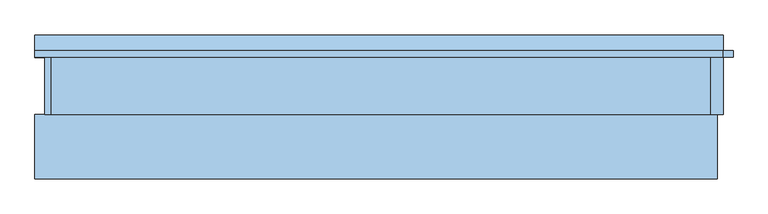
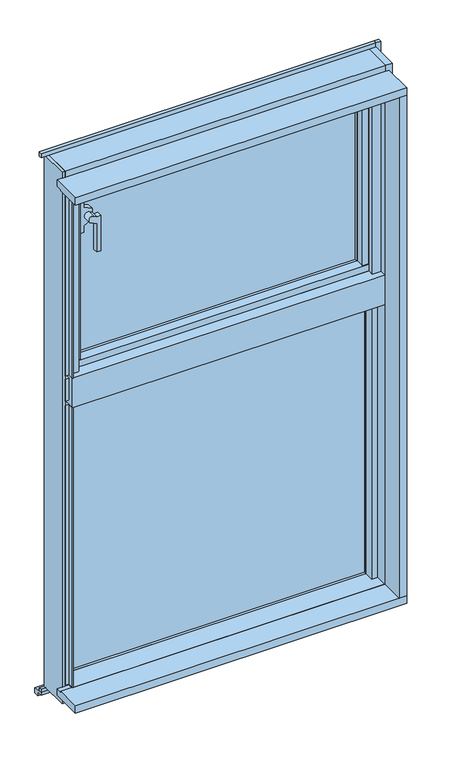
"""IFC4 building model written with IfcOpenShell, lengths in millimetres: window geometry, FNSⅡ100R_個別防火_ALC枠_段窓 : たてすべりだし/FIX."""

from ifc_helpers import new_model, si_unit, frame, origin, place, context, project, spatial, polyline, circle_curve, outline, extrude, faceted_brep, source, transform, mapped, element, save
from ifc_brep_helpers import plane_surface, cylinder_surface, advanced_brep


def window_07d2fa6b(model_context):
    return source(origin(), model_context, "Body", "SolidModel", [
        advanced_brep(
        [(-432.2217924, -8.25, 2440.1128987), (-422.5780089, -8.25, 2459.8870044), (-422.5780089, 16.25, 2459.8870044), (-432.2217924, 16.25, 2440.1128987), (-413.0, -8.25, 2430.7385568), (-413.0, 16.25, 2430.7385568), (-413.0, 6.727, 2430.7385568), (-413.0, 16.25, 2455.2157929), (-413.0, 6.727, 2455.2157929), (-413.0, -8.25, 2335.0), (-399.9, -8.25, 2335.0), (-399.9, -8.25, 2455.1670227), (-413.0, -8.25, 2455.1670227), (-399.9, 6.727, 2455.1670227), (-399.9, 6.727, 2335.0), (-413.0, 6.727, 2335.0)],
        [
            (0, 1, circle_curve(frame((-427.3999338, -8.25, 2449.9999677), z_axis=(0.0, 1.0, 0.0), x_axis=(1.0, 0.0, 0.0)), 11.0002024)),
            (1, 2),
            (2, 3, circle_curve(frame((-427.3999338, 16.25, 2449.9999677), z_axis=(0.0, -1.0, 0.0), x_axis=(1.0, 0.0, 0.0)), 11.0002024)),
            (3, 0),
            (4, 0),
            (3, 5),
            (5, 6),
            (6, 4),
            (5, 7),
            (7, 8),
            (8, 6),
            (4, 9),
            (9, 10),
            (10, 11),
            (11, 12),
            (12, 1),
            (2, 7),
            (12, 8),
            (13, 14),
            (14, 15),
            (15, 6),
            (8, 13),
            (15, 9),
            (14, 10),
            (13, 11),
        ],
        [
            cylinder_surface(frame((-427.3999338, 16.25, 2449.9999677), z_axis=(0.0, -1.0, 0.0), x_axis=(1.0, 0.0, 0.0)), 11.0002024),
            plane_surface(frame((-432.2217924, -8.25, 2440.1128987), z_axis=(-0.4383427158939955, 0.0, -0.8988079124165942), x_axis=(0.0, 1.0, 0.0))),
            plane_surface(frame((-413.0, -8.25, 2430.7385568), z_axis=(1.0, 0.0, 0.0), x_axis=(0.0, 1.0, 0.0))),
            plane_surface(frame((-416.3997314, -8.25, 2449.9999677), z_axis=(0.0, -1.0, 0.0), x_axis=(0.0, 0.0, 1.0))),
            plane_surface(frame((-416.3997314, 16.25, 2449.9999677), z_axis=(0.0, 1.0, 0.0), x_axis=(0.0, 0.0, -1.0))),
            plane_surface(frame((-413.0, -8.25, 2455.2157929), z_axis=(0.43834873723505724, 0.0, 0.8988049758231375), x_axis=(0.0, 1.0, 0.0))),
            plane_surface(frame((-412.9, 6.727, 2455.1670227), z_axis=(0.0, 1.0, 0.0), x_axis=(1.0, 0.0, 0.0))),
            plane_surface(frame((-413.0, -8.25, 2455.1670227), z_axis=(-1.0, 0.0, 0.0), x_axis=(0.0, 1.0, 0.0))),
            plane_surface(frame((-413.0, -8.25, 2335.0), z_axis=(0.0, 0.0, -1.0), x_axis=(0.0, 1.0, 0.0))),
            plane_surface(frame((-399.9, -8.25, 2335.0), z_axis=(1.0, 0.0, 0.0), x_axis=(0.0, 1.0, 0.0))),
            plane_surface(frame((-399.9, -8.25, 2455.1670227), z_axis=(0.0, 0.0, 1.0), x_axis=(0.0, 1.0, 0.0))),
        ],
        [
            (0, [[1, 2, 3, 4]]),
            (1, [[5, -4, 6, 7, 8]]),
            (2, [[9, 10, 11, -7]]),
            (3, [[-1, -5, 12, 13, 14, 15, 16]]),
            (4, [[17, -9, -6, -3]]),
            (5, [[-16, 18, -10, -17, -2]]),
            (6, [[19, 20, 21, -11, 22]]),
            (7, [[23, -12, -8, -21]]),
            (8, [[-13, -23, -20, 24]]),
            (9, [[-14, -24, -19, 25]]),
            (10, [[-15, -25, -22, -18]]),
        ],
    ),
        extrude(outline(polyline([(2504.0, -453.0), (2396.0, -453.0), (2396.0, -440.0), (2418.8197636, -440.0), (2432.0649514, -413.0), (2467.9350486, -413.0), (2481.1802364, -440.0), (2504.0, -440.0), (2504.0, -453.0)])), frame((0.0, 16.25, 0.0), z_axis=(0.0, 1.0, 0.0), x_axis=(0.0, 0.0, 1.0)), (0.0, 0.0, 1.0), 21.0),
        extrude(outline(polyline([(-453.0, 60.0), (453.0, 60.0), (453.0, 54.0), (-453.0, 54.0), (-453.0, 60.0)])), frame((0.0, 0.0, 1969.0), z_axis=(0.0, 0.0, 1.0), x_axis=(1.0, 0.0, 0.0)), (0.0, 0.0, 1.0), 585.0),
        extrude(outline(polyline([(-453.0, 78.0), (453.0, 78.0), (453.0, 72.0), (-453.0, 72.0), (-453.0, 78.0)])), frame((0.0, 0.0, 1969.0), z_axis=(0.0, 0.0, 1.0), x_axis=(1.0, 0.0, 0.0)), (0.0, 0.0, 1.0), 585.0),
        faceted_brep([(-486.0, 18.0, 1929.0), (-472.2, 18.0, 1929.0), (-472.2, 18.0, 2584.0), (-486.0, 18.0, 2584.0), (-486.0, 85.5, 1929.0), (-486.0, 83.5, 2584.0), (-486.0, 83.5, 2600.0), (-486.0, 85.5, 2600.0), (-472.2, 83.5, 2584.0), (-472.2, 83.5, 2600.0), (-500.0, 85.5, 1929.0), (-500.0, 90.0, 1929.0), (-472.2, 90.0, 1929.0), (-500.0, 85.5, 2600.0), (-500.0, 90.0, 2600.0), (-472.2, 90.0, 2600.0), (-472.2, 90.0, 2554.0), (-453.0, 90.0, 2554.0), (-453.0, 90.0, 1969.0), (-472.2, 90.0, 1969.0), (-472.2, 41.0, 1969.0), (-472.2, 41.0, 2554.0), (-453.0, 41.0, 2554.0), (-453.0, 41.0, 1969.0)], [[[0, 1, 2, 3]], [[4, 0, 3, 5, 6, 7]], [[5, 8, 9, 6]], [[10, 11, 12, 1, 0, 4]], [[13, 14, 11, 10]], [[14, 15, 16, 17, 18, 19, 12, 11]], [[1, 12, 19, 20, 21, 16, 15, 9, 8, 2]], [[7, 13, 10, 4]], [[17, 22, 23, 18]], [[19, 18, 23, 20]], [[22, 21, 20, 23]], [[13, 7, 6, 9, 15, 14]], [[8, 5, 3, 2]], [[21, 22, 17, 16]]]),
        faceted_brep([(472.2, 90.0, 2600.0), (500.0, 90.0, 2600.0), (500.0, 90.0, 1929.0), (472.2, 90.0, 1929.0), (472.2, 90.0, 1969.0), (453.0, 90.0, 1969.0), (453.0, 90.0, 2554.0), (472.2, 90.0, 2554.0), (472.2, 83.5, 2584.0), (486.0, 83.5, 2584.0), (486.0, 83.5, 2600.0), (472.2, 83.5, 2600.0), (500.0, 85.5, 1929.0), (486.0, 85.5, 1929.0), (486.0, 18.0, 1929.0), (472.2, 18.0, 1929.0), (500.0, 85.5, 2600.0), (486.0, 85.5, 2600.0), (486.0, 18.0, 2584.0), (472.2, 18.0, 2584.0), (472.2, 41.0, 2554.0), (472.2, 41.0, 1969.0), (453.0, 41.0, 1969.0), (453.0, 41.0, 2554.0)], [[[0, 1, 2, 3, 4, 5, 6, 7]], [[8, 9, 10, 11]], [[12, 13, 14, 15, 3, 2]], [[16, 17, 13, 12]], [[14, 13, 17, 10, 9, 18]], [[15, 14, 18, 19]], [[3, 15, 19, 8, 11, 0, 7, 20, 21, 4]], [[1, 16, 12, 2]], [[21, 22, 5, 4]], [[23, 6, 5, 22]], [[20, 23, 22, 21]], [[16, 1, 0, 11, 10, 17]], [[9, 8, 19, 18]], [[7, 6, 23, 20]]]),
        extrude(outline(polyline([(-453.0, 12.5), (-472.2, 12.5), (-472.2, 41.0), (-453.0, 41.0), (-453.0, 12.5)])), frame((0.0, 0.0, 1972.0), z_axis=(0.0, 0.0, 1.0), x_axis=(1.0, 0.0, 0.0)), (0.0, 0.0, 1.0), 579.0),
        extrude(outline(polyline([(453.0, 12.5), (453.0, 41.0), (472.2, 41.0), (472.2, 12.5), (453.0, 12.5)])), frame((0.0, 0.0, 1972.0), z_axis=(0.0, 0.0, 1.0), x_axis=(1.0, 0.0, 0.0)), (0.0, 0.0, 1.0), 579.0),
        extrude(outline(polyline([(472.2, 41.0), (472.2, 10.0), (-472.2, 10.0), (-472.2, 41.0), (472.2, 41.0)])), frame((0.0, 0.0, 1950.0), z_axis=(0.0, 0.0, 1.0), x_axis=(1.0, 0.0, 0.0)), (0.0, 0.0, 1.0), 22.0),
        extrude(outline(polyline([(90.0, 1929.0), (18.0, 1929.0), (18.0, 1950.0), (41.0, 1950.0), (41.0, 1969.0), (90.0, 1969.0), (90.0, 1929.0)])), frame((-472.2, 0.0, 0.0), z_axis=(1.0, 0.0, 0.0), x_axis=(0.0, 1.0, 0.0)), (0.0, 0.0, 1.0), 944.4),
        extrude(outline(polyline([(90.0, 2600.0), (90.0, 2554.0), (41.0, 2554.0), (41.0, 2573.2), (18.0, 2573.2), (18.0, 2584.0), (83.5, 2584.0), (83.5, 2600.0), (90.0, 2600.0)])), frame((-472.2, 0.0, 0.0), z_axis=(1.0, 0.0, 0.0), x_axis=(0.0, 1.0, 0.0)), (0.0, 0.0, 1.0), 944.4),
        extrude(outline(polyline([(472.2, 41.0), (472.2, 10.0), (-472.2, 10.0), (-472.2, 41.0), (472.2, 41.0)])), frame((0.0, 0.0, 2551.0), z_axis=(0.0, 0.0, 1.0), x_axis=(1.0, 0.0, 0.0)), (0.0, 0.0, 1.0), 22.2),
        faceted_brep([(-515.0, 90.0, 2645.0), (-515.0, -10.0, 2645.0), (-515.0, -10.0, 840.0), (-515.0, 90.0, 840.0), (-515.0, 90.0, 1900.0), (-515.0, 9.0, 1900.0), (-515.0, 9.0, 2600.0), (-515.0, 90.0, 2600.0), (-525.0, -10.0, 2645.0), (-525.0, -10.0, 840.0), (-500.0, 90.0, 2600.0), (-500.0, 14.0, 2600.0), (-500.0, 14.0, 1900.0), (-500.0, 90.0, 1900.0), (-478.0, 14.0, 2600.0), (-478.0, 14.0, 1900.0), (-478.0, 9.0, 2600.0), (-478.0, 9.0, 1900.0), (-525.0, 90.0, 2645.0), (-525.0, 90.0, 840.0)], [[[0, 1, 2, 3, 4, 5, 6, 7]], [[1, 8, 9, 2]], [[10, 11, 12, 13]], [[11, 14, 15, 12]], [[14, 16, 17, 15]], [[18, 8, 1, 0]], [[19, 3, 2, 9]], [[18, 0, 7, 10, 13, 4, 3, 19]], [[8, 18, 19, 9]], [[13, 12, 15, 17, 5, 4]], [[16, 6, 5, 17]], [[10, 7, 6, 16, 14, 11]]]),
        faceted_brep([(535.0, -10.0, 2645.0), (515.0, -10.0, 2645.0), (515.0, -10.0, 840.0), (535.0, -10.0, 840.0), (478.0, 9.0, 2600.0), (478.0, 14.0, 2600.0), (478.0, 14.0, 1900.0), (478.0, 9.0, 1900.0), (535.0, 90.0, 2645.0), (515.0, 90.0, 2645.0), (515.0, 90.0, 840.0), (535.0, 90.0, 840.0), (515.0, 90.0, 2600.0), (515.0, 9.0, 2600.0), (515.0, 9.0, 1900.0), (515.0, 90.0, 1900.0), (500.0, 90.0, 1900.0), (500.0, 90.0, 2600.0), (500.0, 14.0, 1900.0), (500.0, 14.0, 2600.0)], [[[0, 1, 2, 3]], [[4, 5, 6, 7]], [[1, 0, 8, 9]], [[2, 10, 11, 3]], [[1, 9, 12, 13, 14, 15, 10, 2]], [[9, 8, 11, 10, 15, 16, 17, 12]], [[8, 0, 3, 11]], [[18, 16, 15, 14, 7, 6]], [[19, 17, 16, 18]], [[13, 4, 7, 14]], [[5, 19, 18, 6]], [[19, 5, 4, 13, 12, 17]]]),
        extrude(outline(polyline([(500.0, -30.0), (500.0, -10.0), (472.0, -10.0), (472.0, 9.0), (515.0, 9.0), (515.0, -10.0), (503.0, -10.0), (503.0, -30.0), (500.0, -30.0)])), frame((0.0, 0.0, 1950.0), z_axis=(0.0, 0.0, 1.0), x_axis=(1.0, 0.0, 0.0)), (0.0, 0.0, 1.0), 653.0),
        extrude(outline(polyline([(-515.0, -10.0), (-515.0, 9.0), (-472.0, 9.0), (-472.0, -10.0), (-500.0, -10.0), (-500.0, -30.0), (-503.0, -30.0), (-503.0, -10.0), (-515.0, -10.0)])), frame((0.0, 0.0, 1950.0), z_axis=(0.0, 0.0, 1.0), x_axis=(1.0, 0.0, 0.0)), (0.0, 0.0, 1.0), 653.0),
        extrude(outline(polyline([(9.0, 2573.0), (-12.5, 2573.0), (-12.5, 2600.0), (-30.0, 2600.0), (-30.0, 2603.0), (-10.0, 2603.0), (-10.0, 2612.5), (9.0, 2612.5), (9.0, 2573.0)])), frame((-500.0, 0.0, 0.0), z_axis=(1.0, 0.0, 0.0), x_axis=(0.0, 1.0, 0.0)), (0.0, 0.0, 1.0), 1000.0),
        extrude(outline(polyline([(90.0, 2600.0), (14.0, 2600.0), (14.0, 2579.0), (9.0, 2579.0), (9.0, 2612.5), (-10.0, 2612.5), (-10.0, 2645.0), (90.0, 2645.0), (90.0, 2600.0)])), frame((-515.0, 0.0, 0.0), z_axis=(1.0, 0.0, 0.0), x_axis=(0.0, 1.0, 0.0)), (0.0, 0.0, 1.0), 1030.0),
        extrude(outline(polyline([(-10.0, 1940.0), (-10.0, 1865.0), (40.0, 1865.0), (40.0, 1850.0), (-30.0, 1850.0), (-30.0, 1950.0), (9.0, 1950.0), (9.0, 1940.0), (-10.0, 1940.0)])), frame((-503.0, 0.0, 0.0), z_axis=(1.0, 0.0, 0.0), x_axis=(0.0, 1.0, 0.0)), (0.0, 0.0, 1.0), 1006.0),
        extrude(outline(polyline([(90.0, 1850.0), (40.0, 1850.0), (40.0, 1865.0), (-10.0, 1865.0), (-10.0, 1940.0), (14.0, 1940.0), (14.0, 1915.0), (79.0, 1915.0), (79.0, 1900.0), (90.0, 1900.0), (90.0, 1850.0)])), frame((-515.0, 0.0, 0.0), z_axis=(1.0, 0.0, 0.0), x_axis=(0.0, 1.0, 0.0)), (0.0, 0.0, 1.0), 1030.0),
        extrude(outline(polyline([(-480.0, 55.6), (480.0, 55.6), (480.0, 49.6), (-480.0, 49.6), (-480.0, 55.6)])), frame((0.0, 0.0, 900.0), z_axis=(0.0, 0.0, 1.0), x_axis=(1.0, 0.0, 0.0)), (0.0, 0.0, 1.0), 950.0),
        extrude(outline(polyline([(-480.0, 73.6), (480.0, 73.6), (480.0, 67.6), (-480.0, 67.6), (-480.0, 73.6)])), frame((0.0, 0.0, 900.0), z_axis=(0.0, 0.0, 1.0), x_axis=(1.0, 0.0, 0.0)), (0.0, 0.0, 1.0), 950.0),
        extrude(outline(polyline([(-480.0, 90.0), (-480.0, 40.0), (-515.0, 40.0), (-515.0, 90.0), (-480.0, 90.0)])), frame((0.0, 0.0, 900.0), z_axis=(0.0, 0.0, 1.0), x_axis=(1.0, 0.0, 0.0)), (0.0, 0.0, 1.0), 950.0),
        extrude(outline(polyline([(515.0, 90.0), (515.0, 40.0), (480.0, 40.0), (480.0, 90.0), (515.0, 90.0)])), frame((0.0, 0.0, 900.0), z_axis=(0.0, 0.0, 1.0), x_axis=(1.0, 0.0, 0.0)), (0.0, 0.0, 1.0), 950.0),
        extrude(outline(polyline([(500.0, -30.0), (500.0, 8.5), (480.0, 8.5), (480.0, 40.0), (515.0, 40.0), (515.0, -10.0), (503.0, -10.0), (503.0, -30.0), (500.0, -30.0)])), frame((0.0, 0.0, 900.0), z_axis=(0.0, 0.0, 1.0), x_axis=(1.0, 0.0, 0.0)), (0.0, 0.0, 1.0), 950.0),
        extrude(outline(polyline([(-515.0, -10.0), (-515.0, 40.0), (-480.0, 40.0), (-480.0, 8.5), (-500.0, 8.5), (-500.0, -30.0), (-503.0, -30.0), (-503.0, -10.0), (-515.0, -10.0)])), frame((0.0, 0.0, 900.0), z_axis=(0.0, 0.0, 1.0), x_axis=(1.0, 0.0, 0.0)), (0.0, 0.0, 1.0), 950.0),
        extrude(outline(polyline([(-10.0, 884.0), (-10.0, 897.0), (-30.0, 897.0), (-30.0, 900.0), (40.0, 900.0), (40.0, 884.0), (-10.0, 884.0)])), frame((-503.0, 0.0, 0.0), z_axis=(1.0, 0.0, 0.0), x_axis=(0.0, 1.0, 0.0)), (0.0, 0.0, 1.0), 1006.0),
        extrude(outline(polyline([(90.0, 840.0), (-10.0, 840.0), (-10.0, 884.0), (40.0, 884.0), (40.0, 900.0), (90.0, 900.0), (90.0, 870.0), (71.0, 870.0), (71.0, 850.0), (90.0, 850.0), (90.0, 840.0)])), frame((-515.0, 0.0, 0.0), z_axis=(1.0, 0.0, 0.0), x_axis=(0.0, 1.0, 0.0)), (0.0, 0.0, 1.0), 1030.0),
        extrude(outline(polyline([(-110.0, 900.0), (-30.0, 900.0), (-30.0, 897.0), (-10.0, 897.0), (-10.0, 875.0), (-110.0, 875.0), (-110.0, 900.0)])), frame((-540.0, 0.0, 0.0), z_axis=(1.0, 0.0, 0.0), x_axis=(0.0, 1.0, 0.0)), (0.0, 0.0, 1.0), 1065.0),
        extrude(outline(polyline([(-540.0, 80.0), (-540.0, 90.0), (535.0, 90.0), (535.0, 80.0), (-540.0, 80.0)])), frame((0.0, 0.0, 830.0), z_axis=(0.0, 0.0, 1.0), x_axis=(1.0, 0.0, 0.0)), (0.0, 0.0, 1.0), 10.0),
        extrude(outline(polyline([(100.0, 807.0), (100.0, 820.0), (80.0, 820.0), (80.0, 830.0), (90.0, 830.0), (115.0, 825.0), (115.0, 807.0), (100.0, 807.0)])), frame((-540.0, 0.0, 0.0), z_axis=(1.0, 0.0, 0.0), x_axis=(0.0, 1.0, 0.0)), (0.0, 0.0, 1.0), 1075.0),
        extrude(outline(polyline([(525.0, -10.0), (525.0, -110.0), (500.0, -110.0), (500.0, -30.0), (503.0, -30.0), (503.0, -10.0), (525.0, -10.0)])), frame((0.0, 0.0, 900.0), z_axis=(0.0, 0.0, 1.0), x_axis=(1.0, 0.0, 0.0)), (0.0, 0.0, 1.0), 1700.0),
        extrude(outline(polyline([(550.0, 90.0), (550.0, 80.0), (535.0, 80.0), (535.0, 90.0), (550.0, 90.0)])), frame((0.0, 0.0, 820.0), z_axis=(0.0, 0.0, 1.0), x_axis=(1.0, 0.0, 0.0)), (0.0, 0.0, 1.0), 1840.0),
        extrude(outline(polyline([(-110.0, 2625.0), (-10.0, 2625.0), (-10.0, 2603.0), (-30.0, 2603.0), (-30.0, 2600.0), (-110.0, 2600.0), (-110.0, 2625.0)])), frame((-540.0, 0.0, 0.0), z_axis=(1.0, 0.0, 0.0), x_axis=(0.0, 1.0, 0.0)), (0.0, 0.0, 1.0), 1065.0),
        extrude(outline(polyline([(-540.0, 80.0), (-540.0, 90.0), (535.0, 90.0), (535.0, 80.0), (-540.0, 80.0)])), frame((0.0, 0.0, 2645.0), z_axis=(0.0, 0.0, 1.0), x_axis=(1.0, 0.0, 0.0)), (0.0, 0.0, 1.0), 15.0),
    ])


if __name__ == "__main__":
    model = new_model("IFC4")
    model_context = context("Model", 3, world=origin())
    ifc_project = project(units=[si_unit("LENGTHUNIT", "METRE", prefix="MILLI")], contexts=[model_context])
    site = spatial("IfcSite", under=ifc_project)
    building = spatial("IfcBuilding", under=site)
    placement = place(None, origin())
    window_shape = window_07d2fa6b(model_context)
    element("IfcWindow", 1, ObjectType="FNSⅡ100R_個別防火_ALC枠_段窓 : たてすべりだし/FIX", at=placement, inside=building, context=model_context, shape_type="MappedRepresentation", body=[
        mapped(window_shape, transform((0.0, 0.0, 0.0), x_axis=(1.0, 0.0, 0.0), y_axis=(0.0, 1.0, 0.0), z_axis=(0.0, 0.0, 1.0))),
    ])
    save(model, "model.ifc")
